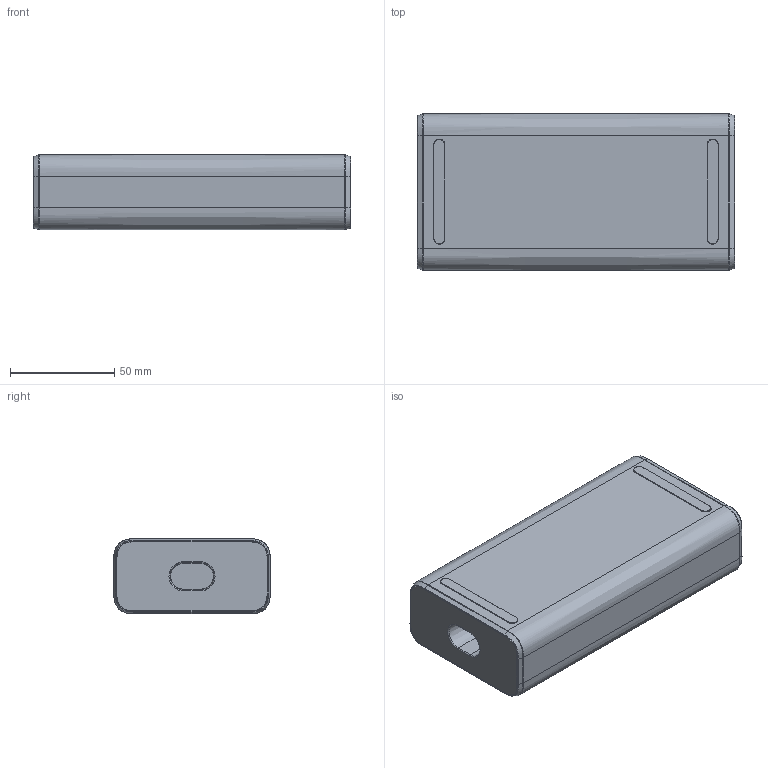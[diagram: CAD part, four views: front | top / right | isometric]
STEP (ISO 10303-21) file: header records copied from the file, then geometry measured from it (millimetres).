
FILE_DESCRIPTION(/* description */ (''),/* implementation_level */ '2;1');
FILE_NAME(/* name */ 'Starlink_V5_PoE.stp',/* time_stamp */ '2026-07-07T17:15:20-05:00',/* author */ (''),/* organization */ (''),/* preprocessor_version */ 'ST-DEVELOPER v20',/* originating_system */ 'SIEMENS PLM Software NX2406.9101',/* authorisation */ '');
FILE_SCHEMA (('AUTOMOTIVE_DESIGN { 1 0 10303 214 3 1 1 1 }'));
Length unit declared in the file: millimetre
Products named in the file (1): 738831_objects
Bounding box: 152 x 75 x 36.3 mm (x, y, z)
Volume: 43937.2 mm3; surface area: 71544.3 mm2
Topology: 5 solids, 7 shells, 218 faces, 576 edges, 410 vertices
Faces by surface type: plane 86, bspline 56, cylinder 38, cone 24, torus 10, extrusion 4
Full cylindrical faces by diameter (mm): 2.5 x4
Entity records: 9805 total; most frequent: CARTESIAN_POINT 4806, ORIENTED_EDGE 1040, DIRECTION 831, EDGE_CURVE 528, VERTEX_POINT 336, AXIS2_PLACEMENT_3D 301, EDGE_LOOP 238, VECTOR 229
